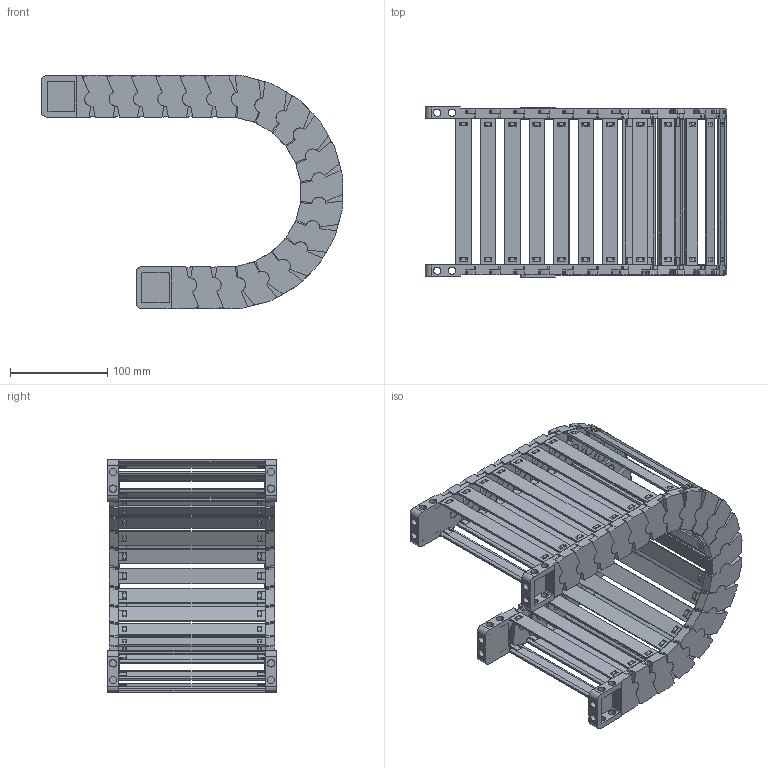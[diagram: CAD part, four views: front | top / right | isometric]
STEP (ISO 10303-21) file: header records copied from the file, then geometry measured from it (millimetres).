
FILE_DESCRIPTION((''),'2;1');
FILE_NAME('JY-35X150-R100_ASM','2022-05-06T17:10:30',('admin'),(''),'CREO PARAMETRIC BY PTC INC, 2021164','CREO PARAMETRIC BY PTC INC, 2021164','');
FILE_SCHEMA(('CONFIG_CONTROL_DESIGN','GEOMETRIC_VALIDATION_PROPERTIES_MIM'));
Length unit declared in the file: millimetre
Products named in the file (11): 35XL-L; 25-35XL-YP; 35XL-R; ASM0001_ASM; 35-LTT-A-L; 35-LTT-A-R; 35XL-LTT-A_ASM; 35-LTT-B-L; 35-LTT-B-R; 35XL-LTT-B_ASM; JY-35X150-R100_ASM
Assembly tree (33 placements, depth 3):
  JY-35X150-R100_ASM
    ASM0001_ASM  x19
      35XL-L
      25-35XL-YP
      35XL-R
    35XL-LTT-A_ASM
      35-LTT-A-L
      25-35XL-YP  x2
      35-LTT-A-R
    35XL-LTT-B_ASM
      35-LTT-B-L
      25-35XL-YP  x2
      35-LTT-B-R
Bounding box: 310.13 x 174.6 x 239.89 mm (x, y, z)
Volume: 761071 mm3; surface area: 484065.2 mm2
Topology: 84 solids, 84 shells, 4366 faces, 12770 edges, 8536 vertices
Faces by surface type: plane 3318, cylinder 1044, bspline 4
Entity records: 20862 total; most frequent: CARTESIAN_POINT 3243, ORIENTED_EDGE 2876, DIRECTION 2864, EDGE_CURVE 1438, VECTOR 1056, LINE 1056, VERTEX_POINT 964, AXIS2_PLACEMENT_3D 904
